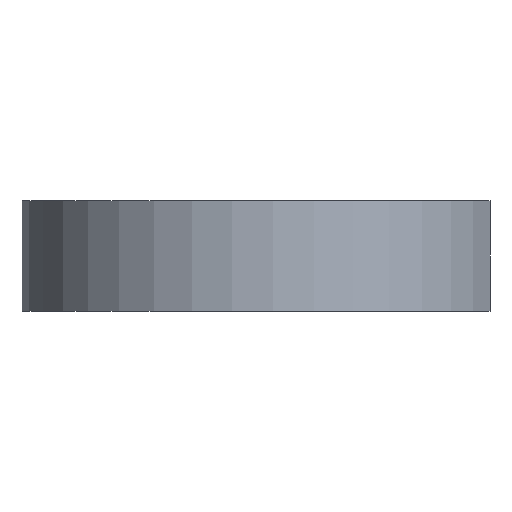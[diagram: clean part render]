
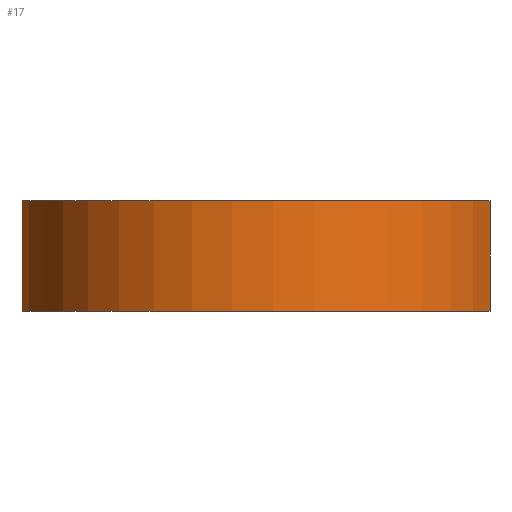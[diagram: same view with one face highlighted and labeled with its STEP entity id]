
A CAD part, front view. The second image highlights one B-rep face of the part: STEP entity #17.
In plain terms, the highlighted cylindrical face has radius 3.5 mm (diameter 7 mm), a partial arc.
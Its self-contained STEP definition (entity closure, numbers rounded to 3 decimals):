
#17 = ADVANCED_FACE('',(#18),#33,.T.);
#18 = FACE_BOUND('',#19,.T.);
#19 = EDGE_LOOP('',(#20,#56,#82,#111));
#20 = ORIENTED_EDGE('',*,*,#21,.F.);
#21 = EDGE_CURVE('',#22,#24,#26,.T.);
#22 = VERTEX_POINT('',#23);
#23 = CARTESIAN_POINT('',(3.306,1.15,0.8));
#24 = VERTEX_POINT('',#25);
#25 = CARTESIAN_POINT('',(3.306,-1.15,0.8));
#26 = SURFACE_CURVE('',#27,(#32,#44),.PCURVE_S1.);
#27 = CIRCLE('',#28,3.5);
#28 = AXIS2_PLACEMENT_3D('',#29,#30,#31);
#29 = CARTESIAN_POINT('',(0.,0.,0.8));
#30 = DIRECTION('',(0.,0.,1.));
#31 = DIRECTION('',(1.,0.,-0.));
#32 = PCURVE('',#33,#38);
#33 = CYLINDRICAL_SURFACE('',#34,3.5);
#34 = AXIS2_PLACEMENT_3D('',#35,#36,#37);
#35 = CARTESIAN_POINT('',(0.,0.,-0.8));
#36 = DIRECTION('',(0.,0.,1.));
#37 = DIRECTION('',(1.,0.,-0.));
#38 = DEFINITIONAL_REPRESENTATION('',(#39),#43);
#39 = LINE('',#40,#41);
#40 = CARTESIAN_POINT('',(0.,1.6));
#41 = VECTOR('',#42,1.);
#42 = DIRECTION('',(1.,0.));
#43 = ( GEOMETRIC_REPRESENTATION_CONTEXT(2) 
PARAMETRIC_REPRESENTATION_CONTEXT() REPRESENTATION_CONTEXT('2D SPACE',''
  ) );
#44 = PCURVE('',#45,#50);
#45 = PLANE('',#46);
#46 = AXIS2_PLACEMENT_3D('',#47,#48,#49);
#47 = CARTESIAN_POINT('',(0.,0.,0.8));
#48 = DIRECTION('',(0.,0.,1.));
#49 = DIRECTION('',(1.,0.,-0.));
#50 = DEFINITIONAL_REPRESENTATION('',(#51),#55);
#51 = CIRCLE('',#52,3.5);
#52 = AXIS2_PLACEMENT_2D('',#53,#54);
#53 = CARTESIAN_POINT('',(0.,0.));
#54 = DIRECTION('',(1.,0.));
#55 = ( GEOMETRIC_REPRESENTATION_CONTEXT(2) 
PARAMETRIC_REPRESENTATION_CONTEXT() REPRESENTATION_CONTEXT('2D SPACE',''
  ) );
#56 = ORIENTED_EDGE('',*,*,#57,.F.);
#57 = EDGE_CURVE('',#58,#22,#60,.T.);
#58 = VERTEX_POINT('',#59);
#59 = CARTESIAN_POINT('',(3.306,1.15,-0.8));
#60 = SURFACE_CURVE('',#61,(#65,#71),.PCURVE_S1.);
#61 = LINE('',#62,#63);
#62 = CARTESIAN_POINT('',(3.306,1.15,-0.8));
#63 = VECTOR('',#64,1.);
#64 = DIRECTION('',(0.,0.,1.));
#65 = PCURVE('',#33,#66);
#66 = DEFINITIONAL_REPRESENTATION('',(#67),#70);
#67 = B_SPLINE_CURVE_WITH_KNOTS('',1,(#68,#69),.UNSPECIFIED.,.F.,.F.,(2,
    2),(0.,1.6),.PIECEWISE_BEZIER_KNOTS.);
#68 = CARTESIAN_POINT('',(0.335,0.));
#69 = CARTESIAN_POINT('',(0.335,1.6));
#70 = ( GEOMETRIC_REPRESENTATION_CONTEXT(2) 
PARAMETRIC_REPRESENTATION_CONTEXT() REPRESENTATION_CONTEXT('2D SPACE',''
  ) );
#71 = PCURVE('',#72,#77);
#72 = PLANE('',#73);
#73 = AXIS2_PLACEMENT_3D('',#74,#75,#76);
#74 = CARTESIAN_POINT('',(-1.,1.15,-0.82));
#75 = DIRECTION('',(-0.,1.,0.));
#76 = DIRECTION('',(0.,0.,1.));
#77 = DEFINITIONAL_REPRESENTATION('',(#78),#81);
#78 = B_SPLINE_CURVE_WITH_KNOTS('',1,(#79,#80),.UNSPECIFIED.,.F.,.F.,(2,
    2),(0.,1.6),.PIECEWISE_BEZIER_KNOTS.);
#79 = CARTESIAN_POINT('',(0.02,4.306));
#80 = CARTESIAN_POINT('',(1.62,4.306));
#81 = ( GEOMETRIC_REPRESENTATION_CONTEXT(2) 
PARAMETRIC_REPRESENTATION_CONTEXT() REPRESENTATION_CONTEXT('2D SPACE',''
  ) );
#82 = ORIENTED_EDGE('',*,*,#83,.T.);
#83 = EDGE_CURVE('',#58,#84,#86,.T.);
#84 = VERTEX_POINT('',#85);
#85 = CARTESIAN_POINT('',(3.306,-1.15,-0.8));
#86 = SURFACE_CURVE('',#87,(#92,#99),.PCURVE_S1.);
#87 = CIRCLE('',#88,3.5);
#88 = AXIS2_PLACEMENT_3D('',#89,#90,#91);
#89 = CARTESIAN_POINT('',(0.,0.,-0.8));
#90 = DIRECTION('',(0.,0.,1.));
#91 = DIRECTION('',(1.,0.,-0.));
#92 = PCURVE('',#33,#93);
#93 = DEFINITIONAL_REPRESENTATION('',(#94),#98);
#94 = LINE('',#95,#96);
#95 = CARTESIAN_POINT('',(0.,0.));
#96 = VECTOR('',#97,1.);
#97 = DIRECTION('',(1.,0.));
#98 = ( GEOMETRIC_REPRESENTATION_CONTEXT(2) 
PARAMETRIC_REPRESENTATION_CONTEXT() REPRESENTATION_CONTEXT('2D SPACE',''
  ) );
#99 = PCURVE('',#100,#105);
#100 = PLANE('',#101);
#101 = AXIS2_PLACEMENT_3D('',#102,#103,#104);
#102 = CARTESIAN_POINT('',(0.,0.,-0.8));
#103 = DIRECTION('',(0.,0.,1.));
#104 = DIRECTION('',(1.,0.,-0.));
#105 = DEFINITIONAL_REPRESENTATION('',(#106),#110);
#106 = CIRCLE('',#107,3.5);
#107 = AXIS2_PLACEMENT_2D('',#108,#109);
#108 = CARTESIAN_POINT('',(0.,0.));
#109 = DIRECTION('',(1.,0.));
#110 = ( GEOMETRIC_REPRESENTATION_CONTEXT(2) 
PARAMETRIC_REPRESENTATION_CONTEXT() REPRESENTATION_CONTEXT('2D SPACE',''
  ) );
#111 = ORIENTED_EDGE('',*,*,#112,.T.);
#112 = EDGE_CURVE('',#84,#24,#113,.T.);
#113 = SURFACE_CURVE('',#114,(#118,#124),.PCURVE_S1.);
#114 = LINE('',#115,#116);
#115 = CARTESIAN_POINT('',(3.306,-1.15,-0.8));
#116 = VECTOR('',#117,1.);
#117 = DIRECTION('',(0.,0.,1.));
#118 = PCURVE('',#33,#119);
#119 = DEFINITIONAL_REPRESENTATION('',(#120),#123);
#120 = B_SPLINE_CURVE_WITH_KNOTS('',1,(#121,#122),.UNSPECIFIED.,.F.,.F.,
  (2,2),(0.,1.6),.PIECEWISE_BEZIER_KNOTS.);
#121 = CARTESIAN_POINT('',(5.948,0.));
#122 = CARTESIAN_POINT('',(5.948,1.6));
#123 = ( GEOMETRIC_REPRESENTATION_CONTEXT(2) 
PARAMETRIC_REPRESENTATION_CONTEXT() REPRESENTATION_CONTEXT('2D SPACE',''
  ) );
#124 = PCURVE('',#125,#130);
#125 = PLANE('',#126);
#126 = AXIS2_PLACEMENT_3D('',#127,#128,#129);
#127 = CARTESIAN_POINT('',(-1.,-1.15,-0.82));
#128 = DIRECTION('',(-0.,1.,0.));
#129 = DIRECTION('',(0.,0.,1.));
#130 = DEFINITIONAL_REPRESENTATION('',(#131),#134);
#131 = B_SPLINE_CURVE_WITH_KNOTS('',1,(#132,#133),.UNSPECIFIED.,.F.,.F.,
  (2,2),(0.,1.6),.PIECEWISE_BEZIER_KNOTS.);
#132 = CARTESIAN_POINT('',(0.02,4.306));
#133 = CARTESIAN_POINT('',(1.62,4.306));
#134 = ( GEOMETRIC_REPRESENTATION_CONTEXT(2) 
PARAMETRIC_REPRESENTATION_CONTEXT() REPRESENTATION_CONTEXT('2D SPACE',''
  ) );
